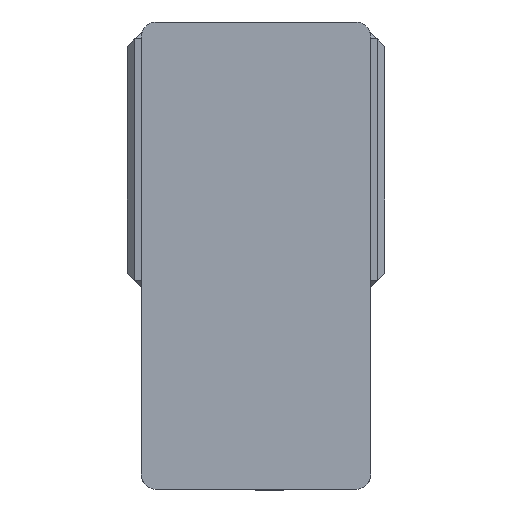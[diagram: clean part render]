
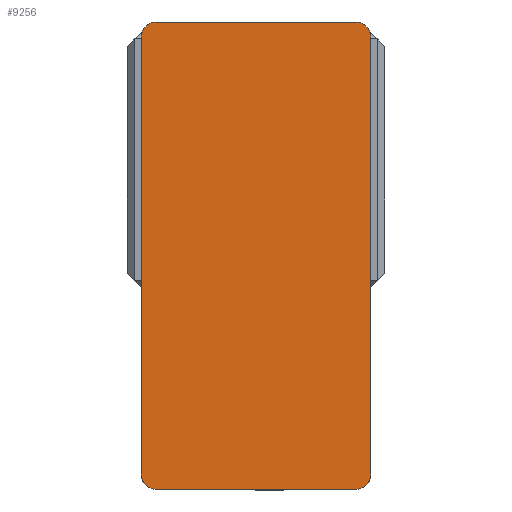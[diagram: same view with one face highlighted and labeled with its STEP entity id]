
A CAD part, left-side view. The second image highlights one B-rep face of the part: STEP entity #9256.
In plain terms, the highlighted planar face has unit normal (-1, 0, 0) as drawn and (0, 0, 1) by its records, which use the part's own axes.
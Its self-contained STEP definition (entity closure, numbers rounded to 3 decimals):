
#54 = VERTEX_POINT ( 'NONE', #3860 ) ;
#502 = DIRECTION ( 'NONE',  ( 1., 0., 0. ) ) ;
#557 = CARTESIAN_POINT ( 'NONE',  ( -75., 152.5, 105. ) ) ;
#1135 = CARTESIAN_POINT ( 'NONE',  ( 65., -142.5, 105. ) ) ;
#1406 = PLANE ( 'NONE',  #3596 ) ;
#1410 = VERTEX_POINT ( 'NONE', #5274 ) ;
#1482 = VERTEX_POINT ( 'NONE', #6512 ) ;
#2027 = DIRECTION ( 'NONE',  ( 1., 0., 0. ) ) ;
#2051 = ORIENTED_EDGE ( 'NONE', *, *, #7039, .T. ) ;
#2156 = VECTOR ( 'NONE', #6263, 1000. ) ;
#2169 = LINE ( 'NONE', #8305, #6593 ) ;
#2287 = DIRECTION ( 'NONE',  ( 1., 0., 0. ) ) ;
#2701 = VERTEX_POINT ( 'NONE', #8342 ) ;
#3008 = VERTEX_POINT ( 'NONE', #5964 ) ;
#3019 = ORIENTED_EDGE ( 'NONE', *, *, #6774, .T. ) ;
#3105 = CARTESIAN_POINT ( 'NONE',  ( 65., -152.5, 105. ) ) ;
#3447 = ORIENTED_EDGE ( 'NONE', *, *, #3531, .T. ) ;
#3531 = EDGE_CURVE ( 'NONE', #54, #5487, #10444, .T. ) ;
#3586 = CARTESIAN_POINT ( 'NONE',  ( -75., -152.5, 105. ) ) ;
#3596 = AXIS2_PLACEMENT_3D ( 'NONE', #5770, #8412, #2287 ) ;
#3661 = CIRCLE ( 'NONE', #6646, 10. ) ;
#3673 = LINE ( 'NONE', #557, #5174 ) ;
#3738 = FACE_OUTER_BOUND ( 'NONE', #6577, .T. ) ;
#3786 = VECTOR ( 'NONE', #6074, 1000. ) ;
#3860 = CARTESIAN_POINT ( 'NONE',  ( 75., 142.5, 105. ) ) ;
#3938 = CARTESIAN_POINT ( 'NONE',  ( 65., 152.5, 105. ) ) ;
#3965 = DIRECTION ( 'NONE',  ( 0., 0., 1. ) ) ;
#4015 = DIRECTION ( 'NONE',  ( 0., 0., 1. ) ) ;
#4692 = VERTEX_POINT ( 'NONE', #3105 ) ;
#4718 = VERTEX_POINT ( 'NONE', #8411 ) ;
#4877 = CIRCLE ( 'NONE', #6227, 10. ) ;
#5153 = CARTESIAN_POINT ( 'NONE',  ( -75., 152.5, 105. ) ) ;
#5174 = VECTOR ( 'NONE', #6740, 1000. ) ;
#5274 = CARTESIAN_POINT ( 'NONE',  ( -65., 152.5, 105. ) ) ;
#5448 = ORIENTED_EDGE ( 'NONE', *, *, #6966, .T. ) ;
#5487 = VERTEX_POINT ( 'NONE', #3938 ) ;
#5630 = DIRECTION ( 'NONE',  ( 0., 1., 0. ) ) ;
#5764 = DIRECTION ( 'NONE',  ( 0., 0., 1. ) ) ;
#5770 = CARTESIAN_POINT ( 'NONE',  ( 0., 0., 105. ) ) ;
#5862 = ORIENTED_EDGE ( 'NONE', *, *, #6901, .T. ) ;
#5964 = CARTESIAN_POINT ( 'NONE',  ( 75., -142.5, 105. ) ) ;
#6074 = DIRECTION ( 'NONE',  ( 0., -1., 0. ) ) ;
#6227 = AXIS2_PLACEMENT_3D ( 'NONE', #11048, #5764, #502 ) ;
#6259 = AXIS2_PLACEMENT_3D ( 'NONE', #9312, #4015, #10203 ) ;
#6263 = DIRECTION ( 'NONE',  ( 1., 0., 0. ) ) ;
#6453 = EDGE_CURVE ( 'NONE', #3008, #54, #2169, .T. ) ;
#6512 = CARTESIAN_POINT ( 'NONE',  ( -65., -152.5, 105. ) ) ;
#6577 = EDGE_LOOP ( 'NONE', ( #5862, #5448, #9786, #3447, #9517, #2051, #3019, #9772 ) ) ;
#6593 = VECTOR ( 'NONE', #5630, 1000. ) ;
#6624 = EDGE_CURVE ( 'NONE', #5487, #1410, #3673, .T. ) ;
#6646 = AXIS2_PLACEMENT_3D ( 'NONE', #1135, #7325, #2027 ) ;
#6740 = DIRECTION ( 'NONE',  ( -1., 0., 0. ) ) ;
#6774 = EDGE_CURVE ( 'NONE', #2701, #4718, #8236, .T. ) ;
#6863 = LINE ( 'NONE', #3586, #2156 ) ;
#6901 = EDGE_CURVE ( 'NONE', #1482, #4692, #6863, .T. ) ;
#6966 = EDGE_CURVE ( 'NONE', #4692, #3008, #3661, .T. ) ;
#7039 = EDGE_CURVE ( 'NONE', #1410, #2701, #4877, .T. ) ;
#7056 = EDGE_CURVE ( 'NONE', #4718, #1482, #7283, .T. ) ;
#7283 = CIRCLE ( 'NONE', #6259, 10. ) ;
#7325 = DIRECTION ( 'NONE',  ( 0., 0., 1. ) ) ;
#8236 = LINE ( 'NONE', #5153, #3786 ) ;
#8305 = CARTESIAN_POINT ( 'NONE',  ( 75., 152.5, 105. ) ) ;
#8342 = CARTESIAN_POINT ( 'NONE',  ( -75., 142.5, 105. ) ) ;
#8411 = CARTESIAN_POINT ( 'NONE',  ( -75., -142.5, 105. ) ) ;
#8412 = DIRECTION ( 'NONE',  ( 0., 0., 1. ) ) ;
#9251 = CARTESIAN_POINT ( 'NONE',  ( 65., 142.5, 105. ) ) ;
#9256 = ADVANCED_FACE ( 'NONE', ( #3738 ), #1406, .T. ) ;
#9312 = CARTESIAN_POINT ( 'NONE',  ( -65., -142.5, 105. ) ) ;
#9517 = ORIENTED_EDGE ( 'NONE', *, *, #6624, .T. ) ;
#9772 = ORIENTED_EDGE ( 'NONE', *, *, #7056, .T. ) ;
#9786 = ORIENTED_EDGE ( 'NONE', *, *, #6453, .T. ) ;
#10116 = AXIS2_PLACEMENT_3D ( 'NONE', #9251, #3965, #10153 ) ;
#10153 = DIRECTION ( 'NONE',  ( 1., 0., 0. ) ) ;
#10203 = DIRECTION ( 'NONE',  ( 1., 0., 0. ) ) ;
#10444 = CIRCLE ( 'NONE', #10116, 10. ) ;
#11048 = CARTESIAN_POINT ( 'NONE',  ( -65., 142.5, 105. ) ) ;
